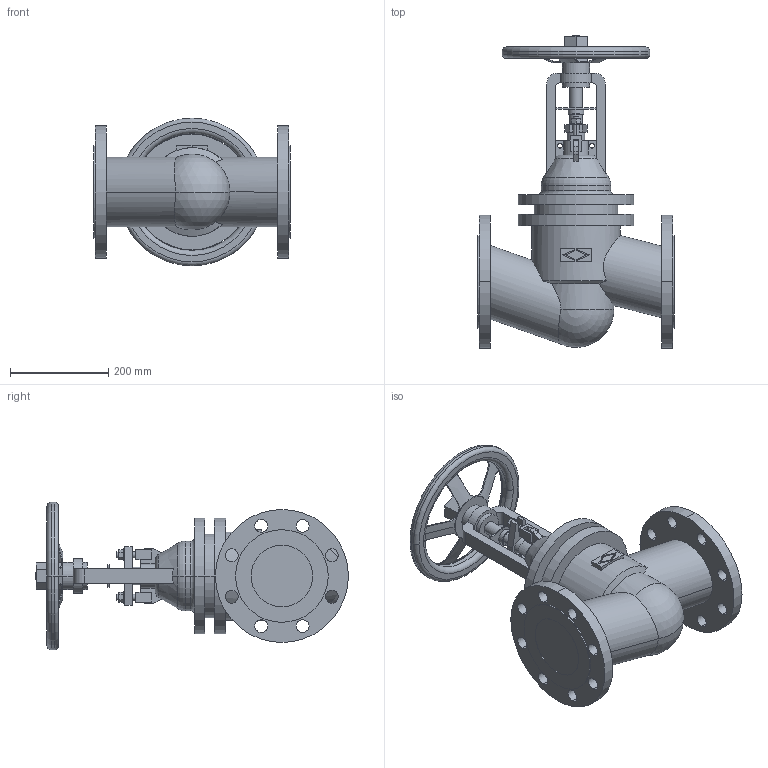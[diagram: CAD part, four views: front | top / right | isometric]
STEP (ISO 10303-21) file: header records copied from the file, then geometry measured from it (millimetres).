
FILE_DESCRIPTION(('OneSpaceDesigner STEP Export'),'2;1');
FILE_NAME('c000003744.stp','2009-06-15T13:04:37',(''),(''),'OneSpace Designer STEP processor for AP214 (Solid Model)','OneSpace Modeling 15.50B 03-Nov-2007 (C) CoCreate Software GmbH','');
FILE_SCHEMA(('AUTOMOTIVE_DESIGN { 1 0 10303 214 1 1 1 1 }'));
Length unit declared in the file: millimetre
Products named in the file (1): 1
Bounding box: 400 x 635.2 x 300 mm (x, y, z)
Volume: 15382435.3 mm3; surface area: 841792.1 mm2
Topology: 1 solids, 1 shells, 327 faces, 901 edges, 591 vertices
Faces by surface type: cylinder 150, plane 145, torus 18, cone 12, sphere 2
Entity records: 13394 total; most frequent: CARTESIAN_POINT 3057, ORIENTED_EDGE 1782, DIRECTION 1361, EDGE_CURVE 891, VERTEX_POINT 587, AXIS2_PLACEMENT_3D 469, VECTOR 423, LINE 423
